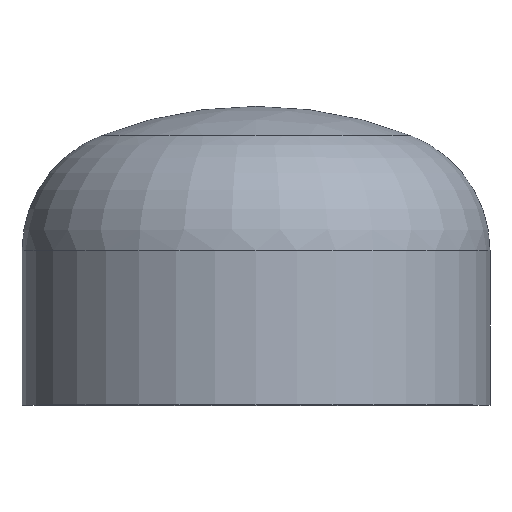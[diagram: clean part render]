
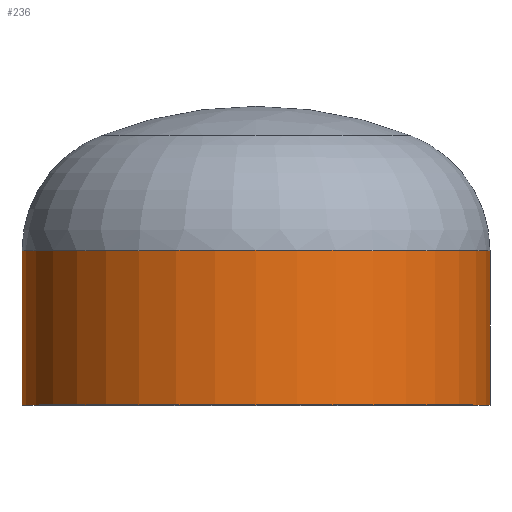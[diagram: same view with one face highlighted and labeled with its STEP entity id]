
A CAD part, top view. The second image highlights one B-rep face of the part: STEP entity #236.
In plain terms, the highlighted cylindrical face has radius 136.5 mm (diameter 273 mm), a partial arc.
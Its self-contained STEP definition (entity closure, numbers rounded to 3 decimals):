
#11 = EDGE_LOOP ( 'NONE', ( #107, #67, #28, #39 ) ) ;
#12 = AXIS2_PLACEMENT_3D ( 'NONE', #151, #162, #141 ) ;
#13 = VERTEX_POINT ( 'NONE', #303 ) ;
#28 = ORIENTED_EDGE ( 'NONE', *, *, #100, .F. ) ;
#29 = VERTEX_POINT ( 'NONE', #272 ) ;
#39 = ORIENTED_EDGE ( 'NONE', *, *, #108, .F. ) ;
#55 = AXIS2_PLACEMENT_3D ( 'NONE', #240, #230, #211 ) ;
#67 = ORIENTED_EDGE ( 'NONE', *, *, #102, .T. ) ;
#87 = VERTEX_POINT ( 'NONE', #268 ) ;
#96 = AXIS2_PLACEMENT_3D ( 'NONE', #360, #356, #355 ) ;
#100 = EDGE_CURVE ( 'NONE', #29, #127, #260, .T. ) ;
#102 = EDGE_CURVE ( 'NONE', #87, #127, #145, .T. ) ;
#107 = ORIENTED_EDGE ( 'NONE', *, *, #342, .T. ) ;
#108 = EDGE_CURVE ( 'NONE', #13, #29, #196, .T. ) ;
#127 = VERTEX_POINT ( 'NONE', #307 ) ;
#141 = DIRECTION ( 'NONE',  ( 1., 0., 0. ) ) ;
#145 = LINE ( 'NONE', #363, #323 ) ;
#151 = CARTESIAN_POINT ( 'NONE',  ( 0., 90., 0. ) ) ;
#162 = DIRECTION ( 'NONE',  ( 0., -1., 0. ) ) ;
#174 = FACE_OUTER_BOUND ( 'NONE', #11, .T. ) ;
#196 = LINE ( 'NONE', #220, #390 ) ;
#211 = DIRECTION ( 'NONE',  ( 1., 0., 0. ) ) ;
#220 = CARTESIAN_POINT ( 'NONE',  ( 136.5, 0., 0. ) ) ;
#229 = DIRECTION ( 'NONE',  ( 0., -1., 0. ) ) ;
#230 = DIRECTION ( 'NONE',  ( 0., -1., 0. ) ) ;
#236 = ADVANCED_FACE ( 'NONE', ( #174 ), #368, .T. ) ;
#240 = CARTESIAN_POINT ( 'NONE',  ( 0., 0., 0. ) ) ;
#260 = CIRCLE ( 'NONE', #96, 136.5 ) ;
#268 = CARTESIAN_POINT ( 'NONE',  ( -136.5, 90., 0. ) ) ;
#272 = CARTESIAN_POINT ( 'NONE',  ( 136.5, 0., 0. ) ) ;
#303 = CARTESIAN_POINT ( 'NONE',  ( 136.5, 90., 0. ) ) ;
#307 = CARTESIAN_POINT ( 'NONE',  ( -136.5, 0., 0. ) ) ;
#323 = VECTOR ( 'NONE', #361, 1000. ) ;
#342 = EDGE_CURVE ( 'NONE', #13, #87, #401, .T. ) ;
#355 = DIRECTION ( 'NONE',  ( 1., 0., 0. ) ) ;
#356 = DIRECTION ( 'NONE',  ( 0., -1., 0. ) ) ;
#360 = CARTESIAN_POINT ( 'NONE',  ( 0., 0., 0. ) ) ;
#361 = DIRECTION ( 'NONE',  ( 0., -1., 0. ) ) ;
#363 = CARTESIAN_POINT ( 'NONE',  ( -136.5, 0., 0. ) ) ;
#368 = CYLINDRICAL_SURFACE ( 'NONE', #55, 136.5 ) ;
#390 = VECTOR ( 'NONE', #229, 1000. ) ;
#401 = CIRCLE ( 'NONE', #12, 136.5 ) ;
